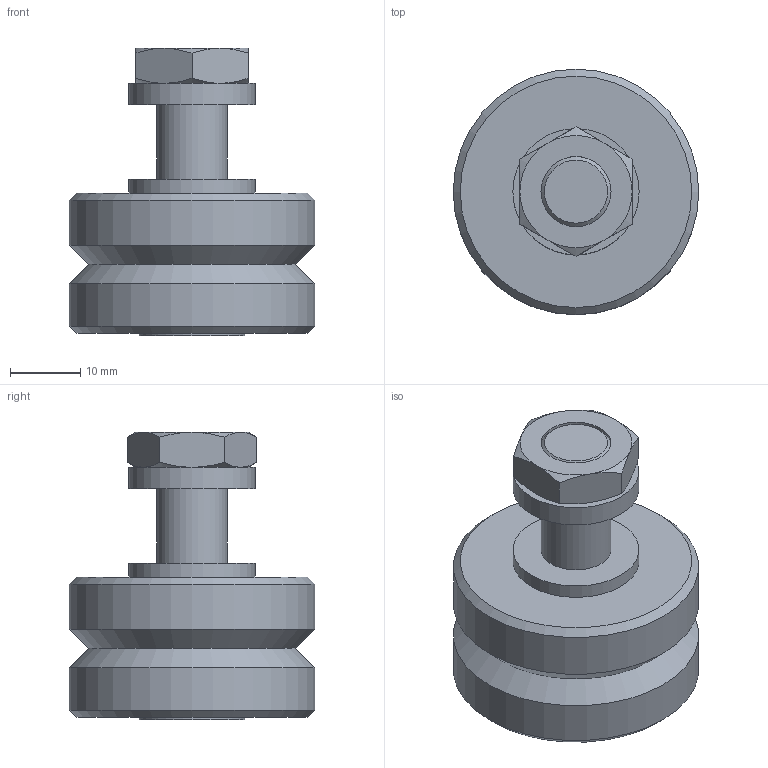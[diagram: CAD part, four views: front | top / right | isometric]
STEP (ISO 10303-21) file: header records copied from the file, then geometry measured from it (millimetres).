
FILE_DESCRIPTION((''),'2;1');
FILE_NAME('D:\製品 (図面)\カタログ用3D\リニアガイド関連\STEP形式\VR\VR10(E).stp','2010-06-02T17:11:42',('Tsuchiya'),(''),'Autodesk Inventor 10','Autodesk Inventor 10','');
FILE_SCHEMA(('AUTOMOTIVE_DESIGN { 1 0 10303 214 1 1 1 1 }'));
Length unit declared in the file: millimetre
Products named in the file (1): VR10(E)
Bounding box: 35 x 35 x 41 mm (x, y, z)
Volume: 21563 mm3; surface area: 5680 mm2
Topology: 1 solids, 1 shells, 40 faces, 77 edges, 46 vertices
Faces by surface type: cone 17, plane 15, cylinder 8
Full cylindrical faces by diameter (mm): 10 x2, 11 x1, 15 x1, 18 x2, 35 x2
Entity records: 921 total; most frequent: CARTESIAN_POINT 195, DIRECTION 152, ORIENTED_EDGE 124, AXIS2_PLACEMENT_3D 73, EDGE_CURVE 62, EDGE_LOOP 60, VERTEX_POINT 44, FACE_OUTER_BOUND 40
